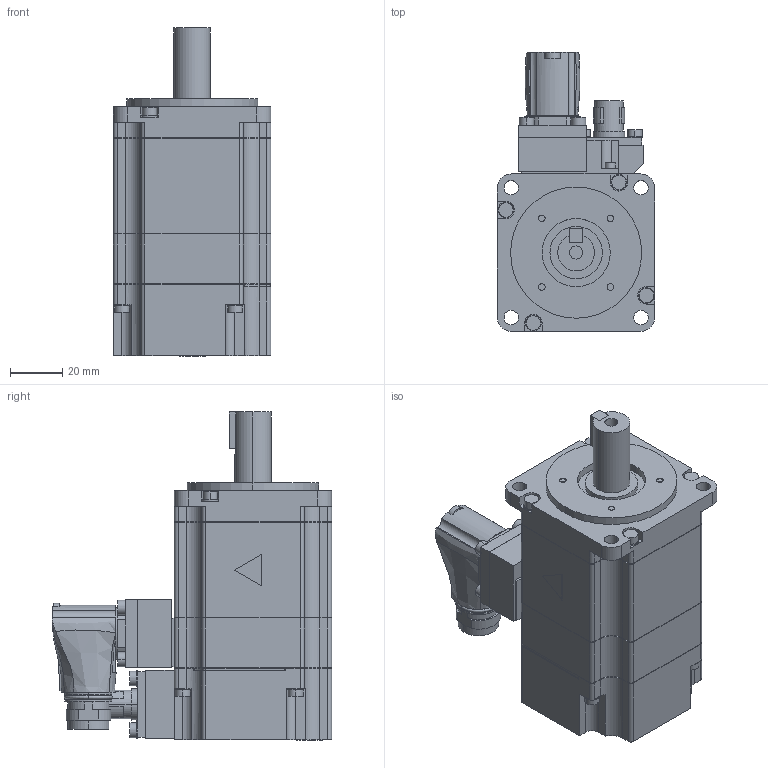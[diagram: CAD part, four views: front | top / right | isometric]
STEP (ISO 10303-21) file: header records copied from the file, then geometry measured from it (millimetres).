
FILE_DESCRIPTION (( 'STEP AP203' ), '1' );
FILE_NAME ('sgm7j_04d_f61.STEP', '2016-03-01T07:00:29', ( '匠エンジニアリング山之内' ), ( 'TAKUMI-Engniaring' ), 'SwSTEP 2.0', 'SolidWorks 2006303', '' );
FILE_SCHEMA (( 'CONFIG_CONTROL_DESIGN' ));
Length unit declared in the file: millimetre
Products named in the file (4): sgm7j_04d_f61; sgm7j_04d_f61_base; sgm7j_04d_f61_key; sgm7j_04d_f61_connector
Assembly tree (3 placements, depth 2):
  sgm7j_04d_f61
    sgm7j_04d_f61_base
    sgm7j_04d_f61_key
    sgm7j_04d_f61_connector
Bounding box: 60.1 x 106.5 x 125.1 mm (x, y, z)
Volume: 351891 mm3; surface area: 45079.1 mm2
Topology: 3 solids, 3 shells, 593 faces, 1535 edges, 1010 vertices
Faces by surface type: plane 319, cylinder 263, bspline 9, torus 2
Entity records: 19367 total; most frequent: CARTESIAN_POINT 3970, DIRECTION 3262, ORIENTED_EDGE 3070, EDGE_CURVE 1535, AXIS2_PLACEMENT_3D 1182, VERTEX_POINT 1010, VECTOR 898, LINE 898
